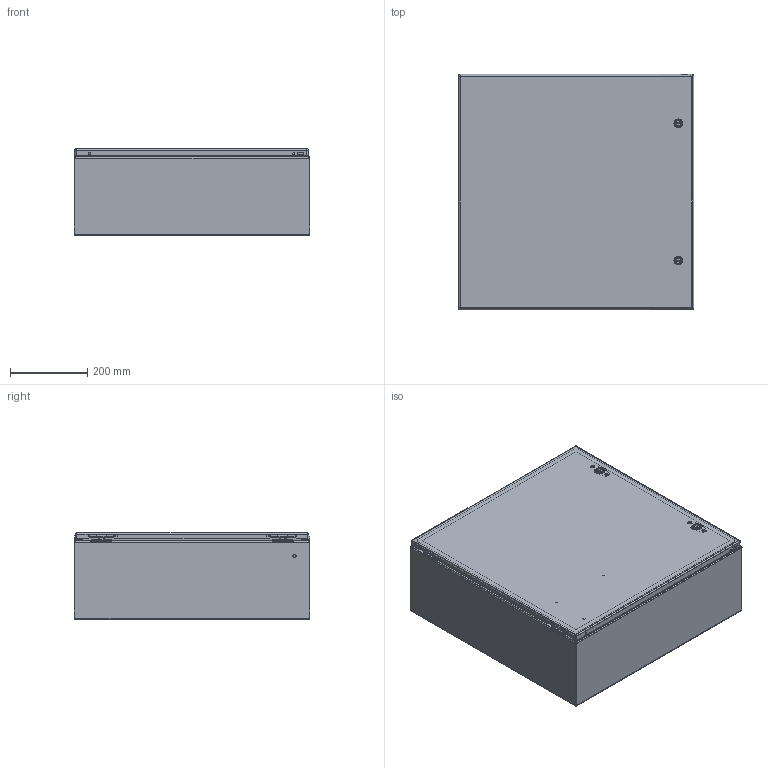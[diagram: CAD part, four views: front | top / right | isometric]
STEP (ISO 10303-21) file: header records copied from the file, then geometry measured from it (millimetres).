
FILE_DESCRIPTION (( 'STEP AP203' ), '1' );
FILE_NAME ('csd24248.STEP', '2012-04-18T19:43:19', ( 'Hoffman User' ), ( 'Hoffman Enclosures' ), 'SwSTEP 2.0', 'SolidWorks 2010', '' );
FILE_SCHEMA (( 'CONFIG_CONTROL_DESIGN' ));
Products named in the file (27): csd24248; 87950931; 87758358_default; 23271001_After Weld; 87937933_assy; 87937973_weldment; 87937913; 99401225; 87931362_87931362; 64101001; 64201001; 87541994_Installed Height; 87541995; 64202001; 64210001; 64203001; 87927840_87927840; 87932903; 64138001; 89057564; 87543027; 89076399; 89076193; 89056623; 87929507; 87929767; 87929769_Installed on Pin
Assembly tree (43 placements, depth 4):
  csd24248
    87950931
      23271001_After Weld  x4
      87758358_default
      99401225
    87543027  x2
    89076399  x2
      89076193
      89056623
    87937933_assy
      87932903  x4
      64138001  x2
      64101001  x2
        87927840_87927840
        64203001
        64201001
        64210001
        64202001
        87541995
        87541994_Installed Height
      87937973_weldment
        87931362_87931362  x6
        87937913
        99401225
      89057564
    87929507  x2
      87929769_Installed on Pin
      87929767
Bounding box: 609.6 x 609.9 x 223.9 mm (x, y, z)
Volume: 2243675.9 mm3; surface area: 2818212.3 mm2
Topology: 47 solids, 47 shells, 2331 faces, 5754 edges, 3472 vertices
Faces by surface type: plane 851, cylinder 704, bspline 512, cone 132, torus 124, sphere 8
Entity records: 46673 total; most frequent: CARTESIAN_POINT 16355, ORIENTED_EDGE 5918, DIRECTION 5185, EDGE_CURVE 2959, AXIS2_PLACEMENT_3D 1860, VERTEX_POINT 1814, LINE 1465, VECTOR 1465
